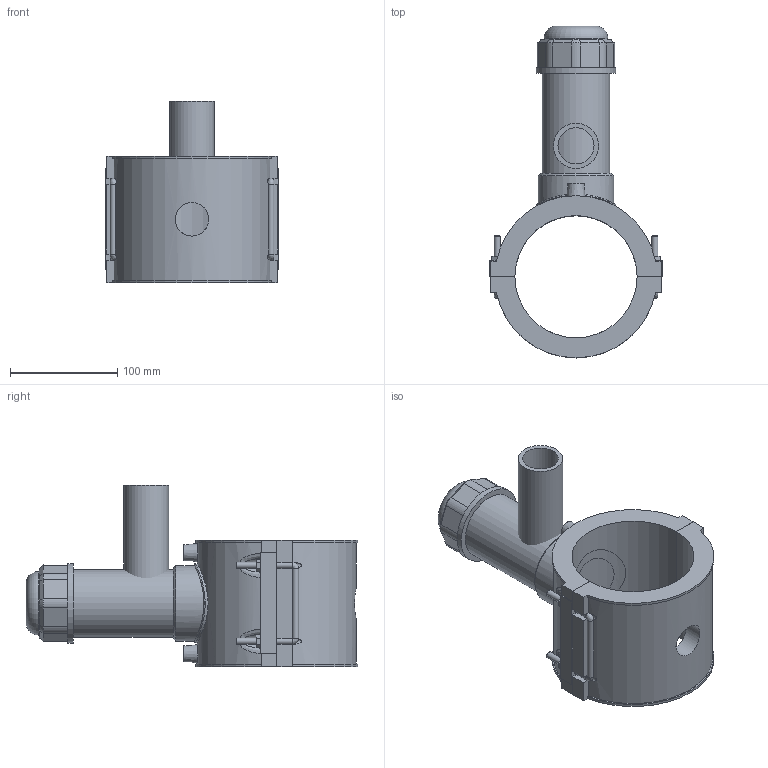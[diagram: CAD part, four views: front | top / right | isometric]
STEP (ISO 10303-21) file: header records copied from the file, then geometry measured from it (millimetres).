
FILE_DESCRIPTION(/* description */ ('PLASSON TAPPING SADDLE 4''''IPS x 1 1/4''''IPS'),/* implementation_level */ '2;1');
FILE_NAME(/* name */ 'C:\Dropbox\KIMPROJECTS-Inventor 2019\99-16-3568-Processing Inch\ASTM ElectroFusion 2021\5963BBP_5963BUP\5963BBP3040013.ipt.stp',/* time_stamp */ '2021-08-30T09:57:07+03:00',/* author */ ('KIM'),/* organization */ (''),/* preprocessor_version */ 'ST-DEVELOPER v17.2',/* originating_system */ 'Autodesk Inventor 2019',/* authorisation */ '');
FILE_SCHEMA (('AUTOMOTIVE_DESIGN { 1 0 10303 214 3 1 1 }'));
Length unit declared in the file: inch
Products named in the file (1): 5963BBP3040013
Bounding box: 161 x 309.74 x 169.04 mm (x, y, z)
Volume: 1265244.7 mm3; surface area: 231874.7 mm2
Topology: 3 solids, 3 shells, 195 faces, 500 edges, 321 vertices
Faces by surface type: plane 112, cylinder 54, cone 15, bspline 13, torus 1
Full cylindrical faces by diameter (mm): 4 x2, 6 x8, 10 x2, 31.36 x1, 33.68 x1, 42.1 x1, 51.915 x1, 59.332 x1, 63.04 x1, 70.457 x1, 74.165 x2
Entity records: 7084 total; most frequent: CARTESIAN_POINT 2337, ORIENTED_EDGE 984, DIRECTION 951, EDGE_CURVE 492, AXIS2_PLACEMENT_3D 325, VERTEX_POINT 321, LINE 301, VECTOR 301
